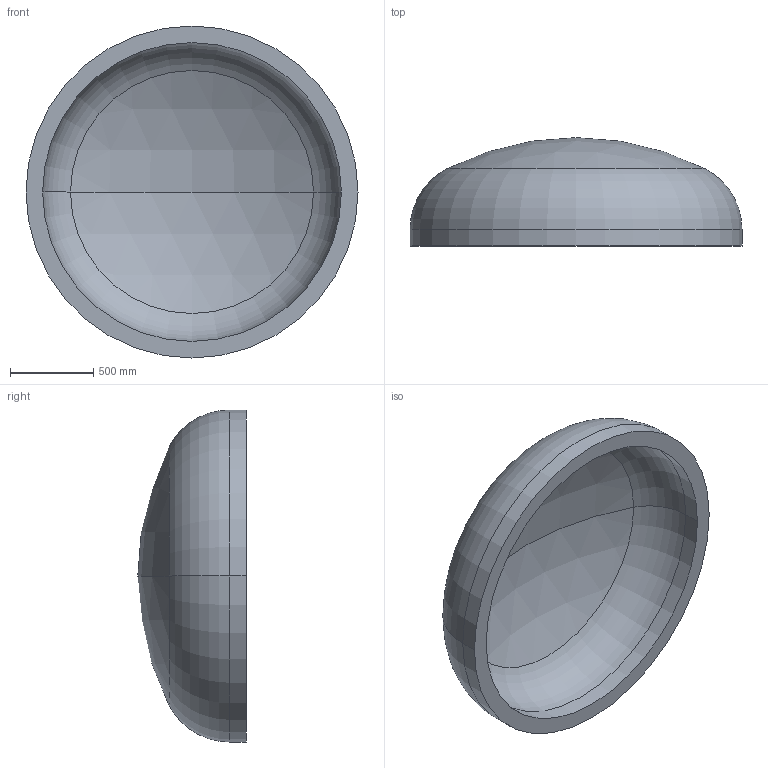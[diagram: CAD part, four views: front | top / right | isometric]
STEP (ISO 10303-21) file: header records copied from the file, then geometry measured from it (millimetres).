
FILE_DESCRIPTION (( 'STEP AP203' ), '1' );
FILE_NAME ('DIN 28013 Korbbogenform_-_Boden DIN 28013 - 2000 x 100 - I - s=100.step', '2016-07-01T14:09:28', ( '' ), ( '' ), 'SwSTEP 2.0', 'SolidWorks 2013', '' );
FILE_SCHEMA (( 'CONFIG_CONTROL_DESIGN' ));
Length unit declared in the file: millimetre
Products named in the file (1): DIN 28013 Korbbogenform_-_Boden DIN 28013 - 2000 x 100 - I - s=100
Bounding box: 2000 x 652.83 x 2000 mm (x, y, z)
Volume: 468261601.3 mm3; surface area: 9983076.1 mm2
Topology: 1 solids, 1 shells, 13 faces, 24 edges, 14 vertices
Faces by surface type: torus 4, cylinder 4, sphere 4, plane 1
Entity records: 407 total; most frequent: DIRECTION 72, CARTESIAN_POINT 52, ORIENTED_EDGE 48, AXIS2_PLACEMENT_3D 34, EDGE_CURVE 24, CIRCLE 20, VERTEX_POINT 14, EDGE_LOOP 14
